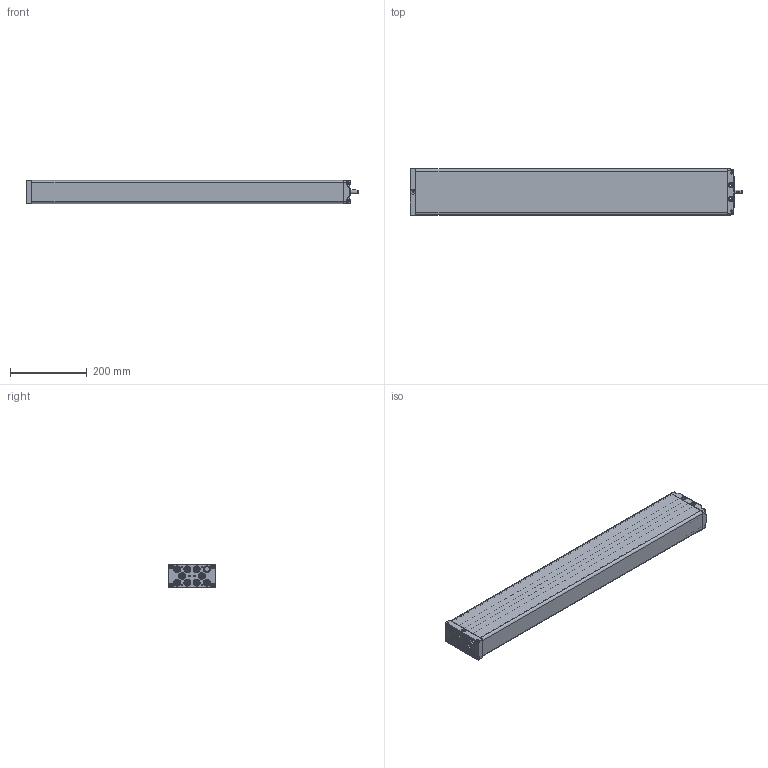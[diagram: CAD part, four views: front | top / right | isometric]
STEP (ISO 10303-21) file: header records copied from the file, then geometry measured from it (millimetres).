
FILE_DESCRIPTION(/* description */ ('Unknown'),/* implementation_level */ '2;1');
FILE_NAME(/* name */ '102.00276 Pumpe PB 9860 W',/* time_stamp */ '2016-11-25T15:21:34+01:00',/* author */ ('Unknown'),/* organization */ ('Unknown'),/* preprocessor_version */ 'ST-DEVELOPER v16.7',/* originating_system */ 'DEX',/* authorisation */ $);
FILE_SCHEMA (('AUTOMOTIVE_DESIGN {1 0 10303 214 3 1 1}'));
Products named in the file (16): 102.00276; 115.10036; 125.00061; 115.00008; 142.00021; 125.00021; 142.00013; 125.00146; 115.00140; 126.00006; 122.00040; 119.00046; 126.00036; 142.00057; 142.00083; 142.00017
Assembly tree (34 placements, depth 3):
  102.00276
    115.10036  x9
      125.00061
      115.00008
      142.00021
      125.00021
    142.00013  x8
    125.00146
    115.00140
      126.00006
      122.00040
    119.00046
    126.00036
    142.00057
    142.00083  x4
    142.00017  x2
Bounding box: 864.5 x 120 x 60.3 mm (x, y, z)
Volume: 1039627.1 mm3; surface area: 719940.6 mm2
Topology: 47 solids, 47 shells, 2205 faces, 5007 edges, 2933 vertices
Faces by surface type: plane 787, cylinder 502, bspline 377, cone 368, torus 112, sphere 59
Full cylindrical faces by diameter (mm): 3.5 x9, 4.1 x9, 4.134 x4, 4.2 x9, 4.917 x2, 5 x12, 5.8 x4, 6 x2, 6.8 x1, 6.917 x18, 8 x19, 8.5 x4, 9.8 x8, 10 x5, 10.4 x1, 10.5 x4, 12.5 x9, 13 x28, 14 x1, 14.4 x9, 17.9 x18, 18 x11, 19 x1
Entity records: 60407 total; most frequent: CARTESIAN_POINT 28878, ORIENTED_EDGE 5076, DIRECTION 4437, EDGE_CURVE 2538, AXIS2_PLACEMENT_3D 1722, VERTEX_POINT 1603, FACE_BOUND 1413, EDGE_LOOP 1412
